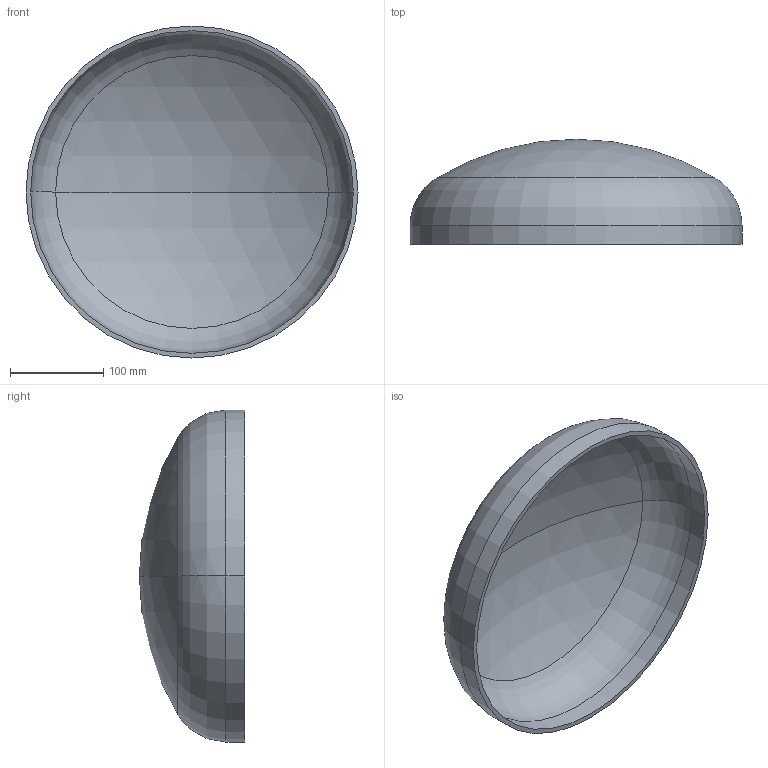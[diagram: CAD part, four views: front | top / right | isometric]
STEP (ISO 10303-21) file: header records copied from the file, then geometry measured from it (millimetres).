
FILE_DESCRIPTION (( 'STEP AP203' ), '1' );
FILE_NAME ('DIN 28013 Korbbogenform_-_Boden DIN 28013 - 355,6 x 20 - I - s=5.step', '2016-07-01T07:46:06', ( '' ), ( '' ), 'SwSTEP 2.0', 'SolidWorks 2013', '' );
FILE_SCHEMA (( 'CONFIG_CONTROL_DESIGN' ));
Length unit declared in the file: millimetre
Products named in the file (1): DIN 28013 Korbbogenform_-_Boden DIN 28013 - 355,6 x 20 - I - s=5
Bounding box: 355.6 x 112.62 x 355.6 mm (x, y, z)
Volume: 785912.1 mm3; surface area: 319924.3 mm2
Topology: 1 solids, 1 shells, 13 faces, 24 edges, 14 vertices
Faces by surface type: torus 4, cylinder 4, sphere 4, plane 1
Entity records: 407 total; most frequent: DIRECTION 72, CARTESIAN_POINT 52, ORIENTED_EDGE 48, AXIS2_PLACEMENT_3D 34, EDGE_CURVE 24, CIRCLE 20, EDGE_LOOP 14, VERTEX_POINT 14
